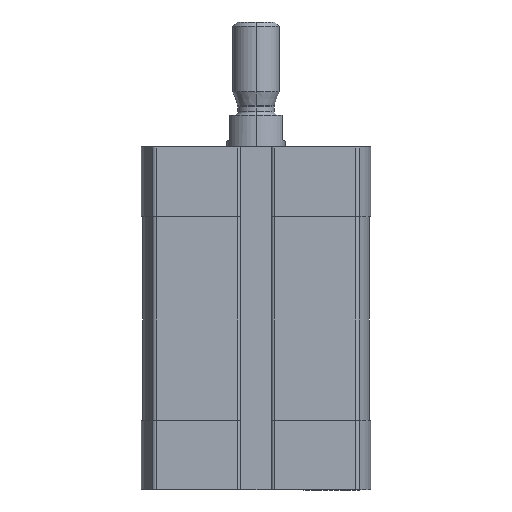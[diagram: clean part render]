
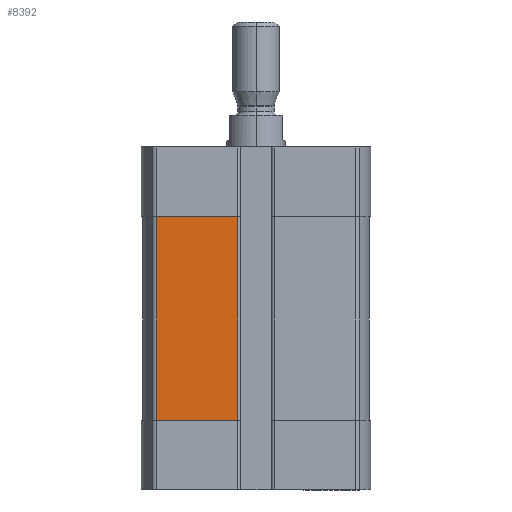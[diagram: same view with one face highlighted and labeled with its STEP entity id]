
A CAD part, left-side view. The second image highlights one B-rep face of the part: STEP entity #8392.
In plain terms, the highlighted planar face has unit normal (-1, 0, 0).
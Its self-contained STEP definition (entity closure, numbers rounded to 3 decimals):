
#148 = CARTESIAN_POINT ( 'NONE',  ( -19.5, 3.1, -47. ) ) ;
#187 = VECTOR ( 'NONE', #1231, 1000. ) ;
#219 = EDGE_CURVE ( 'NONE', #11123, #793, #9694, .T. ) ;
#793 = VERTEX_POINT ( 'NONE', #8494 ) ;
#1043 = ORIENTED_EDGE ( 'NONE', *, *, #219, .T. ) ;
#1231 = DIRECTION ( 'NONE',  ( 0., 0., 1. ) ) ;
#1254 = AXIS2_PLACEMENT_3D ( 'NONE', #13137, #5197, #12220 ) ;
#1318 = FACE_OUTER_BOUND ( 'NONE', #10463, .T. ) ;
#3038 = LINE ( 'NONE', #148, #187 ) ;
#3531 = EDGE_CURVE ( 'NONE', #12192, #11123, #11647, .T. ) ;
#3705 = CARTESIAN_POINT ( 'NONE',  ( -19.5, 17.091, -47. ) ) ;
#4071 = PLANE ( 'NONE',  #1254 ) ;
#4184 = VECTOR ( 'NONE', #5525, 1000. ) ;
#5100 = LINE ( 'NONE', #6045, #10518 ) ;
#5139 = EDGE_CURVE ( 'NONE', #793, #6308, #3038, .T. ) ;
#5197 = DIRECTION ( 'NONE',  ( -1., 0., 0. ) ) ;
#5525 = DIRECTION ( 'NONE',  ( 0., -1., 0. ) ) ;
#6045 = CARTESIAN_POINT ( 'NONE',  ( -19.5, 0., -12. ) ) ;
#6308 = VERTEX_POINT ( 'NONE', #10923 ) ;
#6771 = ORIENTED_EDGE ( 'NONE', *, *, #5139, .T. ) ;
#6871 = DIRECTION ( 'NONE',  ( 0., 0., -1. ) ) ;
#7370 = CARTESIAN_POINT ( 'NONE',  ( -19.5, 17.091, -12. ) ) ;
#7716 = CARTESIAN_POINT ( 'NONE',  ( -19.5, 17.091, -47. ) ) ;
#8080 = VECTOR ( 'NONE', #6871, 1000. ) ;
#8310 = CARTESIAN_POINT ( 'NONE',  ( -19.5, 17.091, -47. ) ) ;
#8318 = EDGE_CURVE ( 'NONE', #6308, #12192, #5100, .T. ) ;
#8392 = ADVANCED_FACE ( 'NONE', ( #1318 ), #4071, .T. ) ;
#8494 = CARTESIAN_POINT ( 'NONE',  ( -19.5, 3.1, -47. ) ) ;
#9126 = DIRECTION ( 'NONE',  ( 0., 1., 0. ) ) ;
#9694 = LINE ( 'NONE', #7716, #4184 ) ;
#10063 = ORIENTED_EDGE ( 'NONE', *, *, #3531, .T. ) ;
#10463 = EDGE_LOOP ( 'NONE', ( #1043, #6771, #11932, #10063 ) ) ;
#10518 = VECTOR ( 'NONE', #9126, 1000. ) ;
#10923 = CARTESIAN_POINT ( 'NONE',  ( -19.5, 3.1, -12. ) ) ;
#11123 = VERTEX_POINT ( 'NONE', #8310 ) ;
#11647 = LINE ( 'NONE', #3705, #8080 ) ;
#11932 = ORIENTED_EDGE ( 'NONE', *, *, #8318, .T. ) ;
#12192 = VERTEX_POINT ( 'NONE', #7370 ) ;
#12220 = DIRECTION ( 'NONE',  ( 0., 0., 1. ) ) ;
#13137 = CARTESIAN_POINT ( 'NONE',  ( -19.5, 17.091, -47. ) ) ;
